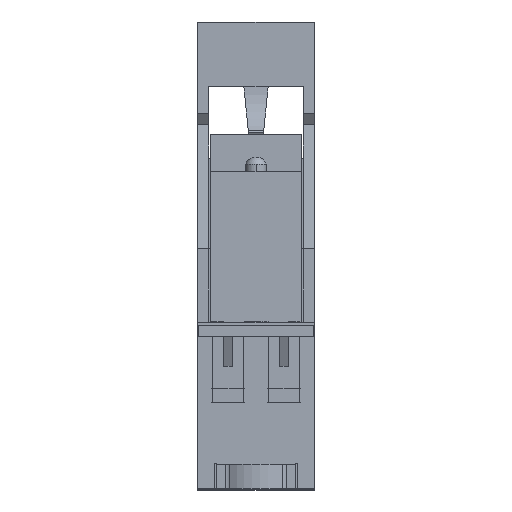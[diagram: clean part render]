
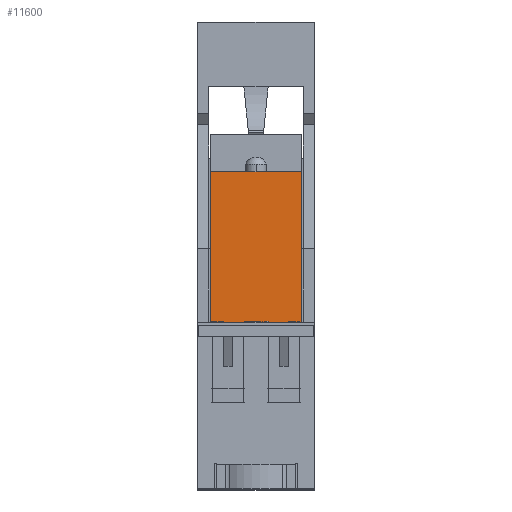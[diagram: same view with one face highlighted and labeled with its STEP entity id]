
A CAD part, top view. The second image highlights one B-rep face of the part: STEP entity #11600.
In plain terms, the highlighted planar face has unit normal (0, 0, 1).
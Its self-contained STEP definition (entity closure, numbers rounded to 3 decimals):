
#66 = EDGE_CURVE ( 'NONE', #15392, #15451, #21212, .T. ) ;
#68 = EDGE_CURVE ( 'NONE', #15400, #15444, #21218, .T. ) ;
#8848 = LINE ( 'NONE', #8849, #9286 ) ;
#8849 = CARTESIAN_POINT ( 'NONE',  ( -6.15, 20.2, 30.9 ) ) ;
#8850 = DIRECTION ( 'NONE',  ( 1., 0., 0. ) ) ;
#8878 = LINE ( 'NONE', #8879, #9296 ) ;
#8879 = CARTESIAN_POINT ( 'NONE',  ( -6.15, 43.2, 30.9 ) ) ;
#8880 = DIRECTION ( 'NONE',  ( 1., 0., 0. ) ) ;
#9286 = VECTOR ( 'NONE', #8850, 1000. ) ;
#9296 = VECTOR ( 'NONE', #8880, 1000. ) ;
#11108 = VECTOR ( 'NONE', #21214, 1000. ) ;
#11281 = VECTOR ( 'NONE', #21220, 1000. ) ;
#11600 = ADVANCED_FACE ( 'NONE', ( #22625 ), #24312, .F. ) ;
#13853 = ORIENTED_EDGE ( 'NONE', *, *, #68, .T. ) ;
#13855 = ORIENTED_EDGE ( 'NONE', *, *, #66, .F. ) ;
#13856 = ORIENTED_EDGE ( 'NONE', *, *, #18395, .T. ) ;
#13857 = ORIENTED_EDGE ( 'NONE', *, *, #18405, .F. ) ;
#15053 = EDGE_LOOP ( 'NONE', ( #13856, #13855, #13857, #13853 ) ) ;
#15392 = VERTEX_POINT ( 'NONE', #24874 ) ;
#15400 = VERTEX_POINT ( 'NONE', #24882 ) ;
#15444 = VERTEX_POINT ( 'NONE', #24926 ) ;
#15451 = VERTEX_POINT ( 'NONE', #24933 ) ;
#18395 = EDGE_CURVE ( 'NONE', #15444, #15451, #8848, .T. ) ;
#18405 = EDGE_CURVE ( 'NONE', #15400, #15392, #8878, .T. ) ;
#21212 = LINE ( 'NONE', #21213, #11108 ) ;
#21213 = CARTESIAN_POINT ( 'NONE',  ( 6.15, 43.2, 30.9 ) ) ;
#21214 = DIRECTION ( 'NONE',  ( 0., -1., 0. ) ) ;
#21218 = LINE ( 'NONE', #21219, #11281 ) ;
#21219 = CARTESIAN_POINT ( 'NONE',  ( -6.15, 43.2, 30.9 ) ) ;
#21220 = DIRECTION ( 'NONE',  ( 0., -1., 0. ) ) ;
#22616 = AXIS2_PLACEMENT_3D ( 'NONE', #24313, #24314, #24315 ) ;
#22625 = FACE_OUTER_BOUND ( 'NONE', #15053, .T. ) ;
#24312 = PLANE ( 'NONE',  #22616 ) ;
#24313 = CARTESIAN_POINT ( 'NONE',  ( -6.15, 43.2, 30.9 ) ) ;
#24314 = DIRECTION ( 'NONE',  ( 0., 0., -1. ) ) ;
#24315 = DIRECTION ( 'NONE',  ( -1., 0., 0. ) ) ;
#24874 = CARTESIAN_POINT ( 'NONE',  ( 6.15, 43.2, 30.9 ) ) ;
#24882 = CARTESIAN_POINT ( 'NONE',  ( -6.15, 43.2, 30.9 ) ) ;
#24926 = CARTESIAN_POINT ( 'NONE',  ( -6.15, 20.2, 30.9 ) ) ;
#24933 = CARTESIAN_POINT ( 'NONE',  ( 6.15, 20.2, 30.9 ) ) ;
